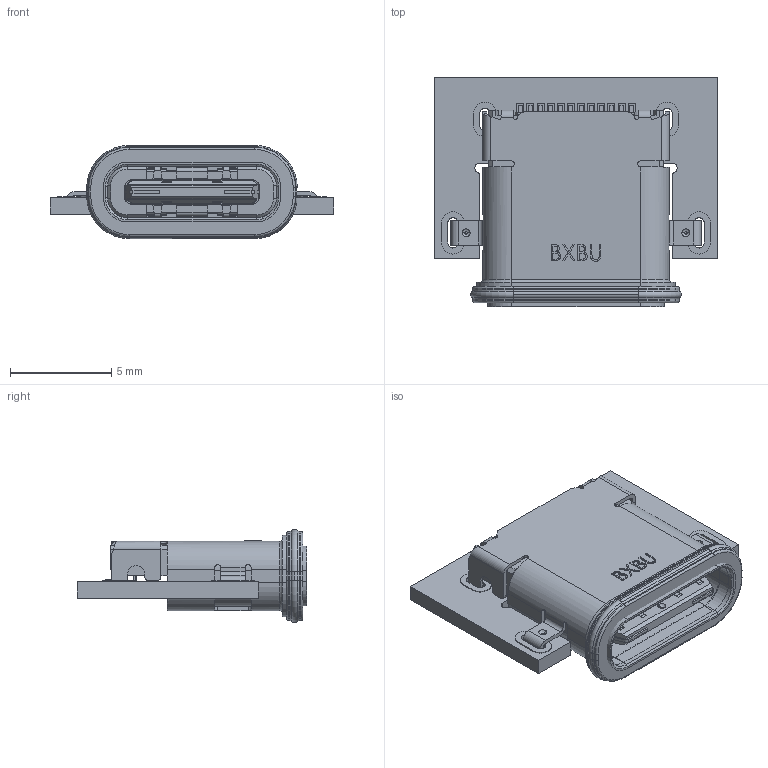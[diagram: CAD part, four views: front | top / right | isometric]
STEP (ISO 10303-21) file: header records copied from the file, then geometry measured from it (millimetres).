
FILE_DESCRIPTION((' '),'2;1');
FILE_NAME( 'U5035-24PN1.4C9.65LF.stp', '2026-05-12T17:26:59', (' '), ('--- ---'), ' V2026.1 Dec 31 2025', ' 2026 (c)', ' ');
FILE_SCHEMA(('AP242_MANAGED_MODEL_BASED_3D_ENGINEERING_MIM_LF { 1 0 10303 442 1 1 4 }'));
Length unit declared in the file: millimetre
Products named in the file (7): PCB; __2___USB_3_1_TYPE-C___1_1_1; PRODUCT_11844_1_1_1; __USB_3_1_TYPE-C___ASM_1_ASM_1__ASM; A40-00183-XXX-XX_ASM_1_ASM_1_ASM; A40-00183-XXX-XX_ASM_ASM_1_ASM; U5035-24PN1.4C9.65LF(2)
Assembly tree (6 placements, depth 5):
  U5035-24PN1.4C9.65LF(2)
    PCB
    A40-00183-XXX-XX_ASM_ASM_1_ASM
      A40-00183-XXX-XX_ASM_1_ASM_1_ASM
        __USB_3_1_TYPE-C___ASM_1_ASM_1__ASM
          __2___USB_3_1_TYPE-C___1_1_1
          PRODUCT_11844_1_1_1
Bounding box: 14 x 11.34 x 4.6 mm (x, y, z)
Volume: 239.4 mm3; surface area: 1137.8 mm2
Topology: 3 solids, 14 shells, 1702 faces, 4593 edges, 2958 vertices
Faces by surface type: plane 970, cylinder 521, bspline 139, torus 44, cone 28
Entity records: 58396 total; most frequent: CARTESIAN_POINT 15552, ORIENTED_EDGE 9186, DIRECTION 8572, EDGE_CURVE 4593, VECTOR 3062, LINE 3062, VERTEX_POINT 2958, AXIS2_PLACEMENT_3D 2755
